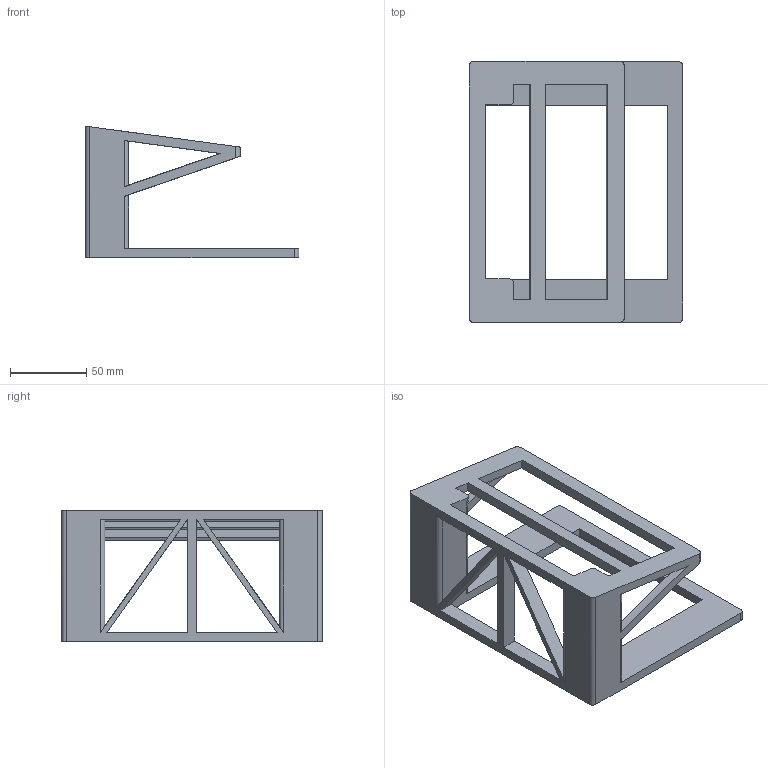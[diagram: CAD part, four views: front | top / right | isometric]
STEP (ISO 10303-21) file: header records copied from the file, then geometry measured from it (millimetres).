
FILE_DESCRIPTION(/* description */ (''),/* implementation_level */ '2;1');
FILE_NAME(/* name */ 'pedalboard-riser.step',/* time_stamp */ '2026-03-06T16:24:45-05:00',/* author */ (''),/* organization */ (''),/* preprocessor_version */ 'ST-DEVELOPER v20.1',/* originating_system */ 'Autodesk Translation Framework v14.24.0.0',/* authorisation */ '');
FILE_SCHEMA (('AUTOMOTIVE_DESIGN { 1 0 10303 214 3 1 1 }'));
Length unit declared in the file: millimetre
Products named in the file (1): (Unsaved)
Bounding box: 140.38 x 171.38 x 86.55 mm (x, y, z)
Volume: 243981.2 mm3; surface area: 73358.4 mm2
Topology: 1 solids, 1 shells, 64 faces, 202 edges, 132 vertices
Faces by surface type: plane 44, cylinder 18, torus 2
Entity records: 2293 total; most frequent: ORIENTED_EDGE 404, CARTESIAN_POINT 399, DIRECTION 374, EDGE_CURVE 202, LINE 160, VECTOR 160, VERTEX_POINT 132, AXIS2_PLACEMENT_3D 107
